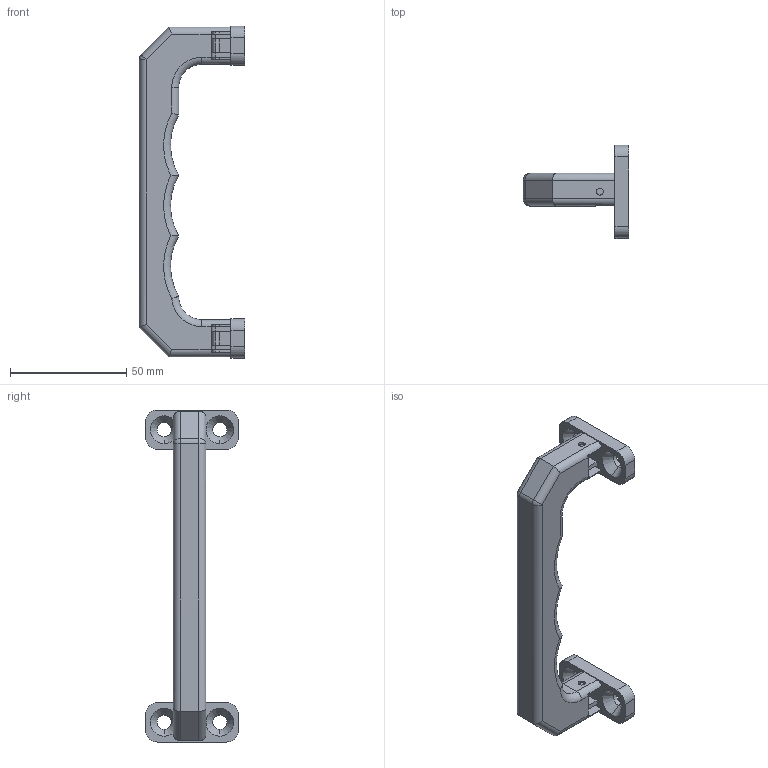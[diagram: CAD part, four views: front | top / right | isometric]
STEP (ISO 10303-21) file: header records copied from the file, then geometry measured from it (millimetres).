
FILE_DESCRIPTION (( 'STEP AP214' ), '1' );
FILE_NAME ('LS527嶺忒[LS527].STEP', '2023-04-25T07:15:21', ( 'Windows 蚚誧' ), ( '' ), 'SwSTEP 2.0', 'SolidWorks 2019', '' );
FILE_SCHEMA (( 'AUTOMOTIVE_DESIGN' ));
Length unit declared in the file: millimetre
Products named in the file (3): LS527嶺忒[LS527]_LS527參忒_LS527; LS527嶺忒[LS527]_LS527參忒饜璃_LS527; LS527嶺忒[LS527]
Assembly tree (3 placements, depth 2):
  LS527嶺忒[LS527]
    LS527嶺忒[LS527]_LS527參忒_LS527
    LS527嶺忒[LS527]_LS527參忒饜璃_LS527  x2
Bounding box: 45.5 x 40 x 143 mm (x, y, z)
Volume: 42890.4 mm3; surface area: 15343.6 mm2
Topology: 3 solids, 3 shells, 134 faces, 328 edges, 206 vertices
Faces by surface type: cylinder 62, plane 52, torus 10, cone 8, sphere 2
Entity records: 3146 total; most frequent: CARTESIAN_POINT 648, DIRECTION 530, ORIENTED_EDGE 480, EDGE_CURVE 240, AXIS2_PLACEMENT_3D 200, VERTEX_POINT 150, VECTOR 130, LINE 130
